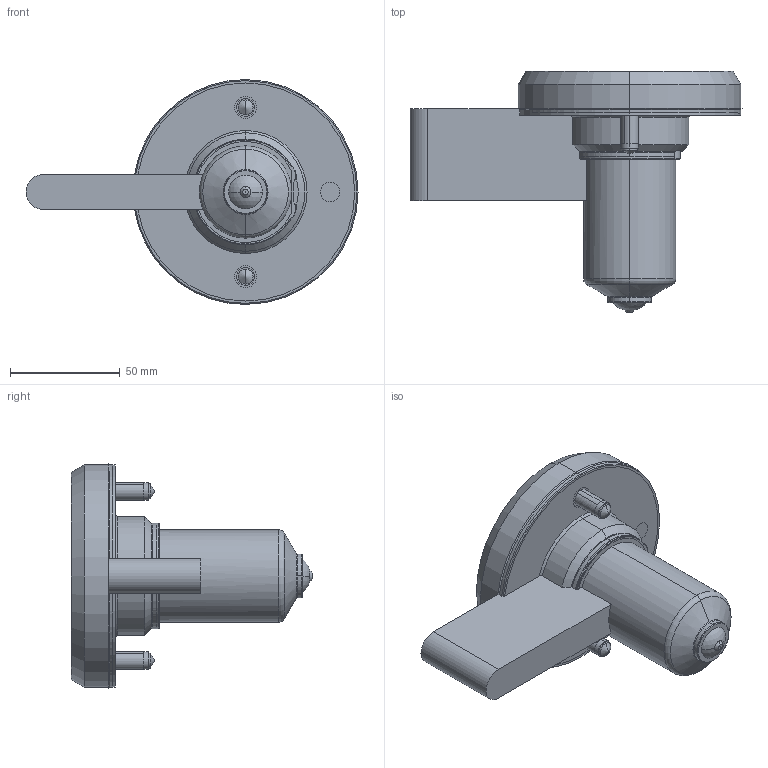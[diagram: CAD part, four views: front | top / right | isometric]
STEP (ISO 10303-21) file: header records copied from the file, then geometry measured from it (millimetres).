
FILE_DESCRIPTION (( 'STEP AP214' ), '1' );
FILE_NAME ('SOHSB16070-SOPGA16.STEP', '2024-11-28T08:49:20', ( '' ), ( '' ), 'SwSTEP 2.0', 'SolidWorks 2022', '' );
FILE_SCHEMA (( 'AUTOMOTIVE_DESIGN' ));
Length unit declared in the file: millimetre
Products named in the file (11): EcoONE-HSB16-Point Gate standard Tip Assembly_SOPGA16; SOHSB16070-SOPGA16; EcoONE-HSB16-00002(A)_SOHSBLR16; EcoONE-HSB16-16006_SONHC16; socket head cap screw_iso_ISO 4762 M8 x 25 - 25N; EcoONE-HSB16-16004_SONH28062; EcoONE-HSB16-Open Gate Cut-out Details_Point Gate; EcoONE-HSB16-Open Gate Bodiless Retainer Tip_SOBRT1601; EcoONE-HSB16-16003(A)_SOHSBNB16070; EcoONE-HSB16-16005_SOTC10350-J; EcoONE-HSB16-Point Gate Needle Tip-Standard_SOPGN1601
Assembly tree (12 placements, depth 3):
  SOHSB16070-SOPGA16
    EcoONE-HSB16-16003(A)_SOHSBNB16070
    EcoONE-HSB16-16004_SONH28062
    EcoONE-HSB16-16005_SOTC10350-J
    EcoONE-HSB16-16006_SONHC16  x2
    EcoONE-HSB16-00002(A)_SOHSBLR16
    socket head cap screw_iso_ISO 4762 M8 x 25 - 25N  x2
    EcoONE-HSB16-Point Gate standard Tip Assembly_SOPGA16
      EcoONE-HSB16-Open Gate Bodiless Retainer Tip_SOBRT1601
      EcoONE-HSB16-Point Gate Needle Tip-Standard_SOPGN1601
    EcoONE-HSB16-Open Gate Cut-out Details_Point Gate
Bounding box: 151.2 x 110 x 102.4 mm (x, y, z)
Volume: 394215.8 mm3; surface area: 102589.8 mm2
Topology: 11 solids, 11 shells, 512 faces, 1274 edges, 800 vertices
Faces by surface type: cylinder 157, plane 137, bspline 99, cone 83, torus 28, sphere 8
Entity records: 29289 total; most frequent: CARTESIAN_POINT 17891, ORIENTED_EDGE 2332, DIRECTION 1982, EDGE_CURVE 1166, AXIS2_PLACEMENT_3D 801, VERTEX_POINT 739, EDGE_LOOP 509, ADVANCED_FACE 469
